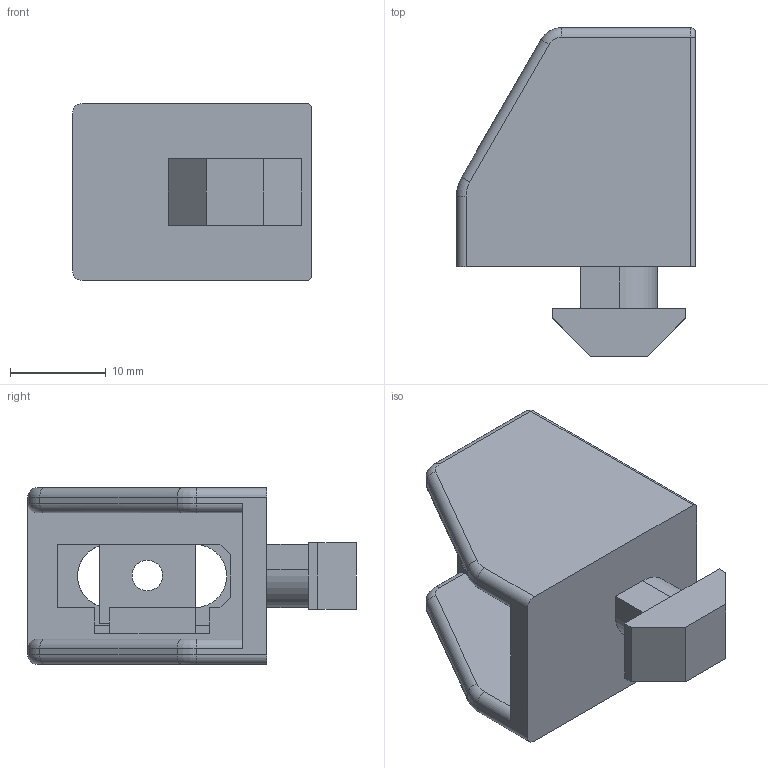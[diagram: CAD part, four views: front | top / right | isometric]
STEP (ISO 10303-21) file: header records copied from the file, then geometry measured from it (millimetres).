
FILE_DESCRIPTION(/* description */ ('STEP AP214'),/* implementation_level */ '2;1');
FILE_NAME(/* name */ '094003M5',/* time_stamp */ '2023-08-30T13:11:53+02:00',/* author */ ('License CC BY-ND 4.0'),/* organization */ ('CADENAS'),/* preprocessor_version */ 'ST-DEVELOPER v19.3',/* originating_system */ 'PARTsolutions',/* authorisation */ ' ');
FILE_SCHEMA (('AUTOMOTIVE_DESIGN {1 0 10303 214 3 1 1}'));
Length unit declared in the file: millimetre
Products named in the file (1): 094003M5
Bounding box: 25 x 34.35 x 18.5 mm (x, y, z)
Volume: 5895.3 mm3; surface area: 4513 mm2
Topology: 1 solids, 1 shells, 94 faces, 244 edges, 154 vertices
Faces by surface type: plane 58, cylinder 26, torus 10
Full cylindrical faces by diameter (mm): 2 x2, 3.2 x1
Entity records: 3533 total; most frequent: CARTESIAN_POINT 501, DIRECTION 492, ORIENTED_EDGE 482, EDGE_CURVE 241, LINE 174, VECTOR 174, AXIS2_PLACEMENT_3D 159, VERTEX_POINT 154
